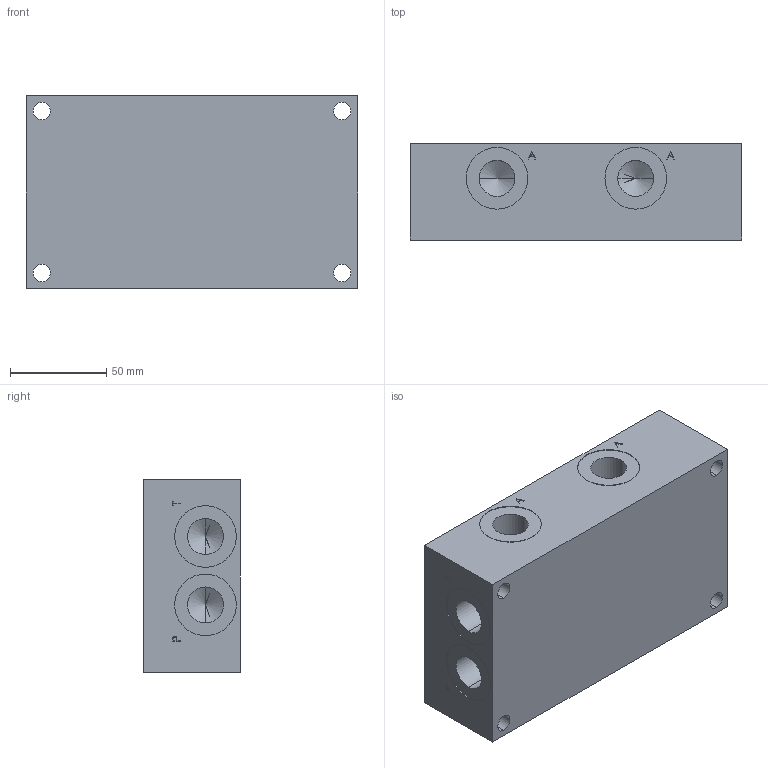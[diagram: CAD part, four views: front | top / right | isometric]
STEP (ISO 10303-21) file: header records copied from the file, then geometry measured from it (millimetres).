
FILE_DESCRIPTION (( 'STEP AP214' ), '1' );
FILE_NAME ('A10_2.STEP', '2017-05-01T14:05:25', ( '' ), ( '' ), 'SwSTEP 2.0', 'SolidWorks 2016', '' );
FILE_SCHEMA (( 'AUTOMOTIVE_DESIGN' ));
Length unit declared in the file: millimetre
Products named in the file (1): A10_2
Bounding box: 172 x 50 x 100 mm (x, y, z)
Volume: 789897.6 mm3; surface area: 82310.3 mm2
Topology: 1 solids, 1 shells, 213 faces, 532 edges, 318 vertices
Faces by surface type: plane 81, cylinder 64, cone 44, bspline 24
Entity records: 7656 total; most frequent: CARTESIAN_POINT 2528, ORIENTED_EDGE 976, DIRECTION 940, EDGE_CURVE 488, VERTEX_POINT 318, AXIS2_PLACEMENT_3D 314, VECTOR 312, LINE 312
